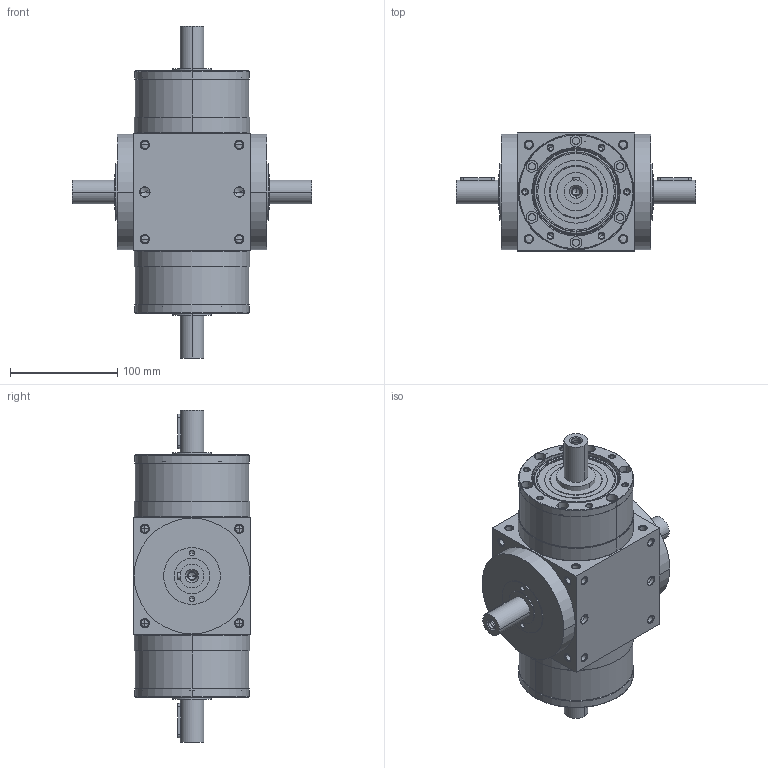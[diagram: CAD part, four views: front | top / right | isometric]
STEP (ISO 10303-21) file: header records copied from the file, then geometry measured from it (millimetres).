
FILE_DESCRIPTION((''),'2;1');
FILE_NAME('AT1104M-1_ASM','2010-02-09T',('d00080'),(''),'PRO/ENGINEER BY PARAMETRIC TECHNOLOGY CORPORATION, 2008170','PRO/ENGINEER BY PARAMETRIC TECHNOLOGY CORPORATION, 2008170','');
FILE_SCHEMA(('CONFIG_CONTROL_DESIGN'));
Length unit declared in the file: millimetre
Products named in the file (4): AT4M-HOUSING-1-5; P1801500001; 22400071005; AT1104M-1_ASM
Assembly tree (5 placements, depth 2):
  AT1104M-1_ASM
    AT4M-HOUSING-1-5
    P1801500001  x2
    22400071005  x2
Bounding box: 224 x 110 x 310 mm (x, y, z)
Volume: 2367470.2 mm3; surface area: 272758.4 mm2
Topology: 7 solids, 47 shells, 844 faces, 2048 edges, 1212 vertices
Faces by surface type: cylinder 380, cone 280, plane 116, torus 68
Entity records: 18790 total; most frequent: CARTESIAN_POINT 3945, DIRECTION 3336, ORIENTED_EDGE 2816, EDGE_CURVE 1476, AXIS2_PLACEMENT_3D 1398, VERTEX_POINT 925, CIRCLE 760, EDGE_LOOP 739
